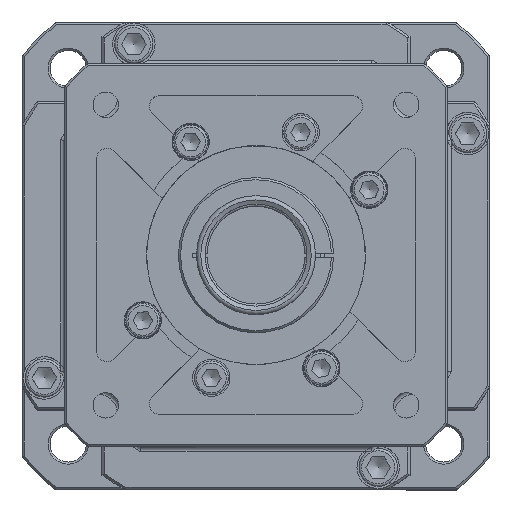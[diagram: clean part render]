
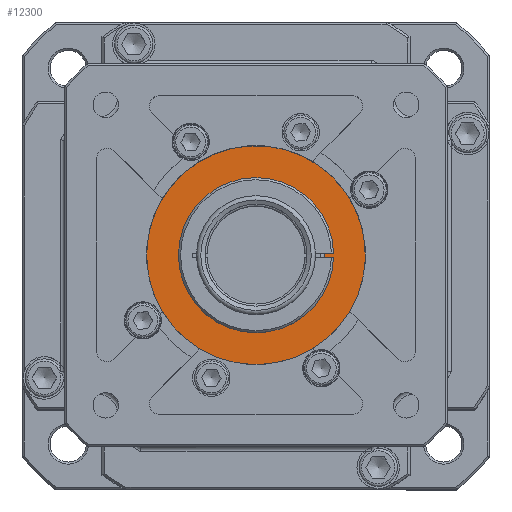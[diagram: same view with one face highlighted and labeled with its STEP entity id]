
A CAD part, top view. The second image highlights one B-rep face of the part: STEP entity #12300.
In plain terms, the highlighted planar face has unit normal (0, 0, 1).
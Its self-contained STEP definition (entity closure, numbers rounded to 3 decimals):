
#9718=CARTESIAN_POINT('',(32.35,0.,56.5));
#9719=VERTEX_POINT('',#9718);
#9720=CARTESIAN_POINT('',(0.0,0.0,56.5));
#9721=DIRECTION('',(0.0,0.0,-1.0));
#9722=DIRECTION('',(-1.0,0.0,0.0));
#9723=AXIS2_PLACEMENT_3D('',#9720,#9721,#9722);
#9724=CIRCLE('',#9723,32.35);
#9725=EDGE_CURVE('',#9719,#9719,#9724,.T.);
#10153=CARTESIAN_POINT('',(54.5,0.,56.5));
#10154=VERTEX_POINT('',#10153);
#10155=CARTESIAN_POINT('',(0.0,0.0,56.5));
#10156=DIRECTION('',(0.0,0.0,1.0));
#10157=DIRECTION('',(-1.0,0.0,0.0));
#10158=AXIS2_PLACEMENT_3D('',#10155,#10156,#10157);
#10159=CIRCLE('',#10158,54.5);
#10160=EDGE_CURVE('',#10154,#10154,#10159,.T.);
#12289=CARTESIAN_POINT('',(0.0,0.0,56.5));
#12290=DIRECTION('',(0.0,0.0,-1.0));
#12291=DIRECTION('',(-1.0,0.0,0.0));
#12292=AXIS2_PLACEMENT_3D('',#12289,#12290,#12291);
#12293=PLANE('',#12292);
#12294=ORIENTED_EDGE('',*,*,#10160,.T.);
#12295=EDGE_LOOP('',(#12294));
#12296=FACE_OUTER_BOUND('',#12295,.T.);
#12297=ORIENTED_EDGE('',*,*,#9725,.T.);
#12298=EDGE_LOOP('',(#12297));
#12299=FACE_BOUND('',#12298,.T.);
#12300=ADVANCED_FACE('',(#12296,#12299),#12293,.F.);
